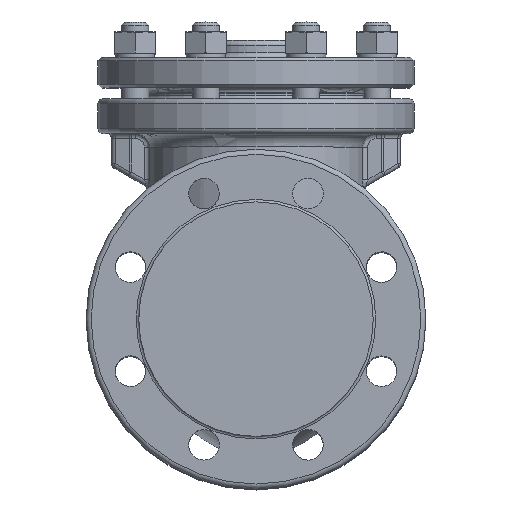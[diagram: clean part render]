
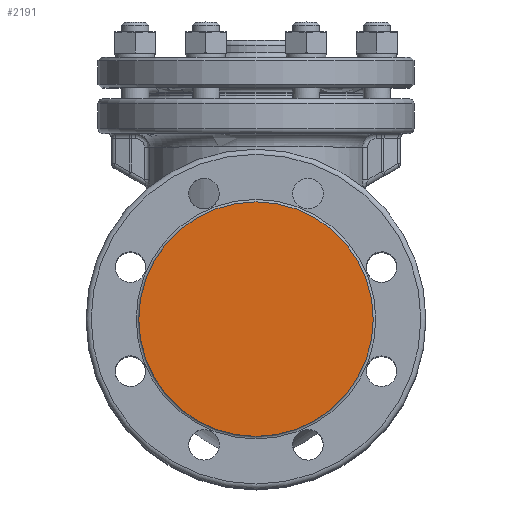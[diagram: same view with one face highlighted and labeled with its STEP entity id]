
A CAD part, top view. The second image highlights one B-rep face of the part: STEP entity #2191.
In plain terms, the highlighted planar face has unit normal (0, 0, 1).
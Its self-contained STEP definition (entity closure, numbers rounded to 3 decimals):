
#1629=FACE_OUTER_BOUND('',#3375,.T.);
#2191=ADVANCED_FACE('',(#1629),#2803,.F.);
#2803=PLANE('',#9829);
#3375=EDGE_LOOP('',(#4368));
#4368=ORIENTED_EDGE('',*,*,#7904,.F.);
#7034=VERTEX_POINT('',#30469);
#7904=EDGE_CURVE('',#7034,#7034,#9170,.T.);
#9170=CIRCLE('',#9817,69.);
#9817=AXIS2_PLACEMENT_3D('',#30468,#11183,#11184);
#9829=AXIS2_PLACEMENT_3D('',#30490,#11207,#11208);
#11183=DIRECTION('',(0.,0.,-1.));
#11184=DIRECTION('',(-1.,0.,0.));
#11207=DIRECTION('',(0.,0.,-1.));
#11208=DIRECTION('',(-1.,0.,0.));
#30468=CARTESIAN_POINT('',(0.,0.,155.));
#30469=CARTESIAN_POINT('',(-69.,0.,155.));
#30490=CARTESIAN_POINT('',(0.,0.,155.));
